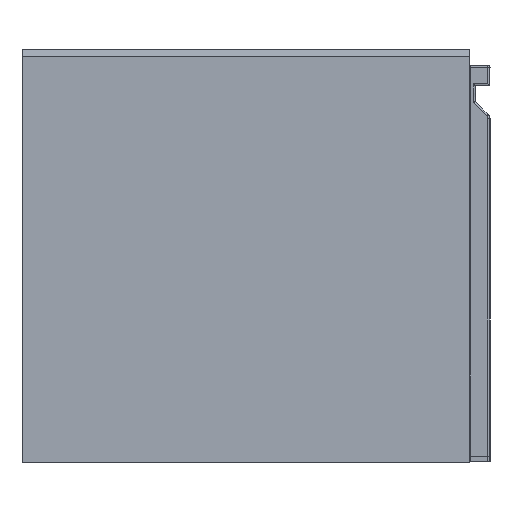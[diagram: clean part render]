
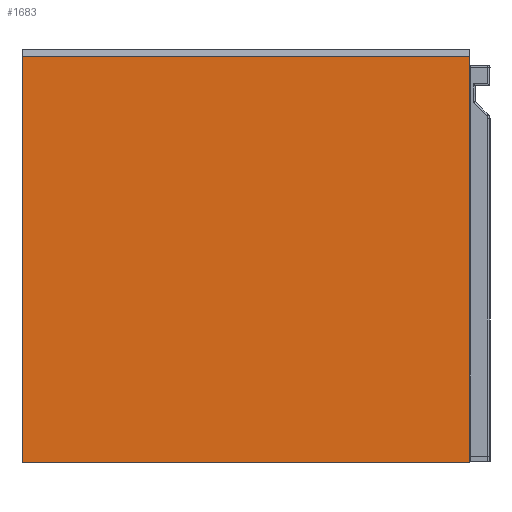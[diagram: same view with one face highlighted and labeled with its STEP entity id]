
A CAD part, left-side view. The second image highlights one B-rep face of the part: STEP entity #1683.
In plain terms, the highlighted planar face has unit normal (-1, 0, 0).
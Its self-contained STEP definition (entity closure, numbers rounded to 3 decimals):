
#1683=ADVANCED_FACE('',(#2737),#18310,.T.);
#2737=FACE_OUTER_BOUND('',#3923,.T.);
#3923=EDGE_LOOP('',(#9462,#9463,#9464,#9465));
#9462=ORIENTED_EDGE('',*,*,#12419,.F.);
#9463=ORIENTED_EDGE('',*,*,#12423,.F.);
#9464=ORIENTED_EDGE('',*,*,#12426,.T.);
#9465=ORIENTED_EDGE('',*,*,#12427,.T.);
#12419=EDGE_CURVE('',#17228,#17225,#15285,.T.);
#12423=EDGE_CURVE('',#17231,#17228,#15289,.T.);
#12426=EDGE_CURVE('',#17231,#17233,#15292,.T.);
#12427=EDGE_CURVE('',#17233,#17225,#15293,.T.);
#15285=B_SPLINE_CURVE_WITH_KNOTS('',1,(#38203,#38204),.UNSPECIFIED.,.F.,
 .F.,(2,2),(0.,430.),.UNSPECIFIED.);
#15289=B_SPLINE_CURVE_WITH_KNOTS('',1,(#38211,#38212),.UNSPECIFIED.,.F.,
 .F.,(2,2),(-390.,0.),.UNSPECIFIED.);
#15292=B_SPLINE_CURVE_WITH_KNOTS('',1,(#38217,#38218),.UNSPECIFIED.,.F.,
 .F.,(2,2),(-430.,0.),.UNSPECIFIED.);
#15293=B_SPLINE_CURVE_WITH_KNOTS('',1,(#38219,#38220),.UNSPECIFIED.,.F.,
 .F.,(2,2),(0.,390.),.UNSPECIFIED.);
#17225=VERTEX_POINT('',#38187);
#17228=VERTEX_POINT('',#38190);
#17231=VERTEX_POINT('',#38193);
#17233=VERTEX_POINT('',#38195);
#18310=PLANE('',#19707);
#19707=AXIS2_PLACEMENT_3D('',#38183,#20577,$);
#20577=DIRECTION('',(-1.,0.,0.));
#38183=CARTESIAN_POINT('',(-7790.326,-10876.937,-1904.411));
#38187=CARTESIAN_POINT('',(-7790.326,-10833.817,-1475.291));
#38190=CARTESIAN_POINT('',(-7790.326,-10403.817,-1475.291));
#38193=CARTESIAN_POINT('',(-7790.326,-10403.817,-1865.291));
#38195=CARTESIAN_POINT('',(-7790.326,-10833.817,-1865.291));
#38203=CARTESIAN_POINT('',(-7790.326,-10403.817,-1475.291));
#38204=CARTESIAN_POINT('',(-7790.326,-10833.817,-1475.291));
#38211=CARTESIAN_POINT('',(-7790.326,-10403.817,-1865.291));
#38212=CARTESIAN_POINT('',(-7790.326,-10403.817,-1475.291));
#38217=CARTESIAN_POINT('',(-7790.326,-10403.817,-1865.291));
#38218=CARTESIAN_POINT('',(-7790.326,-10833.817,-1865.291));
#38219=CARTESIAN_POINT('',(-7790.326,-10833.817,-1865.291));
#38220=CARTESIAN_POINT('',(-7790.326,-10833.817,-1475.291));
